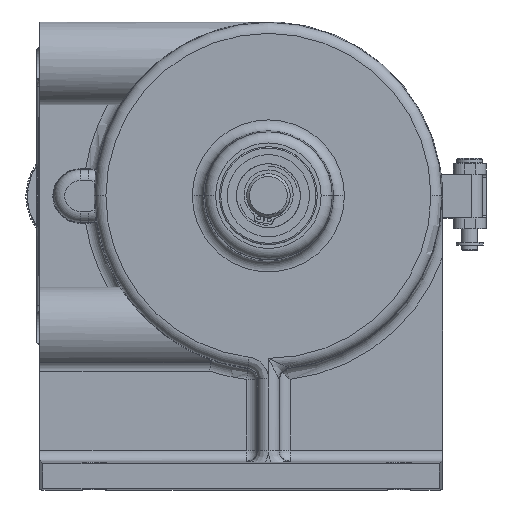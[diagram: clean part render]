
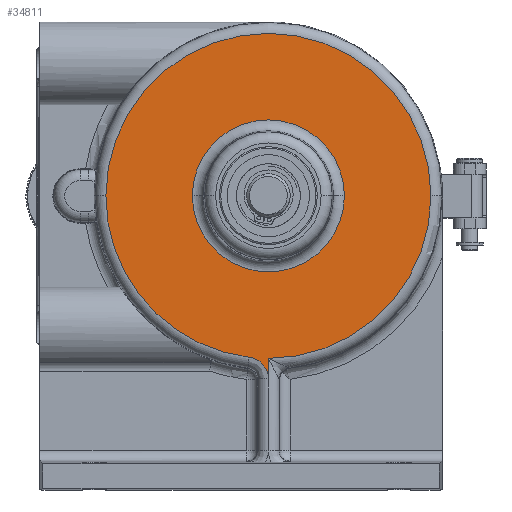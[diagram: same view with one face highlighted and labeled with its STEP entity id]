
A CAD part, top view. The second image highlights one B-rep face of the part: STEP entity #34811.
In plain terms, the highlighted planar face has unit normal (0, 0, 1).
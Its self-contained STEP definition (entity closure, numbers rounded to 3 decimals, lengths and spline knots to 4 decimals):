
#587 = CARTESIAN_POINT ( 'NONE',  ( -0.5741, 1.0016, 0.2475 ) ) ;
#589 = DIRECTION ( 'NONE',  ( 0., 0., 1. ) ) ;
#590 = DIRECTION ( 'NONE',  ( 1., 0., 0. ) ) ;
#653 = CARTESIAN_POINT ( 'NONE',  ( -0.5741, 1.0016, 0.2475 ) ) ;
#655 = DIRECTION ( 'NONE',  ( 0., 0., -1. ) ) ;
#657 = DIRECTION ( 'NONE',  ( 1., 0., 0. ) ) ;
#1706 = CARTESIAN_POINT ( 'NONE',  ( -0.5741, 1.0016, 0.2475 ) ) ;
#1708 = DIRECTION ( 'NONE',  ( 0., 0., 1. ) ) ;
#1710 = DIRECTION ( 'NONE',  ( 1., 0., 0. ) ) ;
#2342 = CARTESIAN_POINT ( 'NONE',  ( -0.5741, 1.0016, 0.2475 ) ) ;
#2343 = DIRECTION ( 'NONE',  ( 0., 1., 0. ) ) ;
#2371 = CARTESIAN_POINT ( 'NONE',  ( -0.5741, 1.0016, 0.2475 ) ) ;
#2372 = DIRECTION ( 'NONE',  ( 0., 0., -1. ) ) ;
#2373 = DIRECTION ( 'NONE',  ( 1., 0., 0. ) ) ;
#8743 = CARTESIAN_POINT ( 'NONE',  ( -0.7946, -0.8516, 0.2475 ) ) ;
#9139 = CARTESIAN_POINT ( 'NONE',  ( -0.5741, -1.0999, 0.2475 ) ) ;
#25897 = CARTESIAN_POINT ( 'NONE',  ( 0.2987, 1.0016, 0.2475 ) ) ;
#30124 = FACE_OUTER_BOUND ( 'NONE', #48497, .T. ) ;
#30146 = FACE_BOUND ( 'NONE', #48780, .T. ) ;
#32896 = CARTESIAN_POINT ( 'NONE',  ( -0.5741, 1.0016, 0.2475 ) ) ;
#32897 = PLANE ( 'NONE',  #66712 ) ;
#32902 = DIRECTION ( 'NONE',  ( 0., 0., 1. ) ) ;
#32903 = DIRECTION ( 'NONE',  ( 1., 0., 0. ) ) ;
#34811 = ADVANCED_FACE ( 'NONE', ( #30124, #30146 ), #32897, .T. ) ;
#36924 = VERTEX_POINT ( 'NONE', #48584 ) ;
#36944 = VERTEX_POINT ( 'NONE', #48614 ) ;
#36948 = VERTEX_POINT ( 'NONE', #48621 ) ;
#36960 = ORIENTED_EDGE ( 'NONE', *, *, #42986, .T. ) ;
#36961 = ORIENTED_EDGE ( 'NONE', *, *, #43228, .T. ) ;
#36962 = ORIENTED_EDGE ( 'NONE', *, *, #40450, .T. ) ;
#36963 = ORIENTED_EDGE ( 'NONE', *, *, #40451, .T. ) ;
#36964 = ORIENTED_EDGE ( 'NONE', *, *, #43264, .T. ) ;
#36965 = ORIENTED_EDGE ( 'NONE', *, *, #42994, .T. ) ;
#36966 = ORIENTED_EDGE ( 'NONE', *, *, #43273, .T. ) ;
#40450 = EDGE_CURVE ( 'NONE', #42143, #48860, #64672, .T. ) ;
#40451 = EDGE_CURVE ( 'NONE', #48860, #53029, #62873, .T. ) ;
#42143 = VERTEX_POINT ( 'NONE', #67643 ) ;
#42986 = EDGE_CURVE ( 'NONE', #36944, #36948, #65203, .T. ) ;
#42994 = EDGE_CURVE ( 'NONE', #60584, #36924, #65215, .T. ) ;
#43228 = EDGE_CURVE ( 'NONE', #36948, #42143, #65411, .T. ) ;
#43264 = EDGE_CURVE ( 'NONE', #53029, #36944, #65437, .T. ) ;
#43273 = EDGE_CURVE ( 'NONE', #36924, #60584, #65444, .T. ) ;
#48497 = EDGE_LOOP ( 'NONE', ( #36960, #36961, #36962, #36963, #36964 ) ) ;
#48584 = CARTESIAN_POINT ( 'NONE',  ( -1.447, 1.0016, 0.2475 ) ) ;
#48614 = CARTESIAN_POINT ( 'NONE',  ( -0.5741, -0.8647, 0.2475 ) ) ;
#48621 = CARTESIAN_POINT ( 'NONE',  ( 1.2921, 1.0016, 0.2475 ) ) ;
#48780 = EDGE_LOOP ( 'NONE', ( #36965, #36966 ) ) ;
#48860 = VERTEX_POINT ( 'NONE', #8743 ) ;
#53029 = VERTEX_POINT ( 'NONE', #9139 ) ;
#60190 = AXIS2_PLACEMENT_3D ( 'NONE', #66482, #66484, #66485 ) ;
#60254 = AXIS2_PLACEMENT_3D ( 'NONE', #587, #589, #590 ) ;
#60257 = AXIS2_PLACEMENT_3D ( 'NONE', #653, #655, #657 ) ;
#60301 = AXIS2_PLACEMENT_3D ( 'NONE', #1706, #1708, #1710 ) ;
#60308 = AXIS2_PLACEMENT_3D ( 'NONE', #2371, #2372, #2373 ) ;
#60584 = VERTEX_POINT ( 'NONE', #25897 ) ;
#62873 = B_SPLINE_CURVE_WITH_KNOTS ( 'NONE', 3,
 ( #66487, #66459, #66478, #66489, #66491, #66492, #66494, #66496, #66498, #66499, #66501, #66503, #66505, #66506, #66508, #66510, #66512, #66513, #66515, #66517 ),
 .UNSPECIFIED., .F., .F.,
 ( 4, 2, 2, 2, 2, 2, 2, 2, 2, 4 ),
 ( 0., 0.0012, 0.0023, 0.0035, 0.0046, 0.0052, 0.0058, 0.007, 0.0081, 0.0093 ),
 .UNSPECIFIED. ) ;
#64672 = CIRCLE ( 'NONE', #60190, 1.8663 ) ;
#65203 = CIRCLE ( 'NONE', #60254, 1.8663 ) ;
#65215 = CIRCLE ( 'NONE', #60257, 0.8728 ) ;
#65411 = CIRCLE ( 'NONE', #60301, 1.8663 ) ;
#65437 = LINE ( 'NONE', #2342, #65441 ) ;
#65441 = VECTOR ( 'NONE', #2343, 39.3701 ) ;
#65444 = CIRCLE ( 'NONE', #60308, 0.8728 ) ;
#66459 = CARTESIAN_POINT ( 'NONE',  ( -0.7794, -0.8534, 0.2475 ) ) ;
#66478 = CARTESIAN_POINT ( 'NONE',  ( -0.7644, -0.8566, 0.2475 ) ) ;
#66482 = CARTESIAN_POINT ( 'NONE',  ( -0.5741, 1.0016, 0.2475 ) ) ;
#66484 = DIRECTION ( 'NONE',  ( 0., 0., 1. ) ) ;
#66485 = DIRECTION ( 'NONE',  ( 1., 0., 0. ) ) ;
#66487 = CARTESIAN_POINT ( 'NONE',  ( -0.7946, -0.8516, 0.2475 ) ) ;
#66489 = CARTESIAN_POINT ( 'NONE',  ( -0.7356, -0.8656, 0.2475 ) ) ;
#66491 = CARTESIAN_POINT ( 'NONE',  ( -0.7217, -0.8713, 0.2475 ) ) ;
#66492 = CARTESIAN_POINT ( 'NONE',  ( -0.6949, -0.8853, 0.2475 ) ) ;
#66494 = CARTESIAN_POINT ( 'NONE',  ( -0.682, -0.8937, 0.2475 ) ) ;
#66496 = CARTESIAN_POINT ( 'NONE',  ( -0.6582, -0.9123, 0.2475 ) ) ;
#66498 = CARTESIAN_POINT ( 'NONE',  ( -0.6472, -0.9226, 0.2475 ) ) ;
#66499 = CARTESIAN_POINT ( 'NONE',  ( -0.6321, -0.9396, 0.2475 ) ) ;
#66501 = CARTESIAN_POINT ( 'NONE',  ( -0.6273, -0.9455, 0.2475 ) ) ;
#66503 = CARTESIAN_POINT ( 'NONE',  ( -0.6183, -0.9577, 0.2475 ) ) ;
#66505 = CARTESIAN_POINT ( 'NONE',  ( -0.6141, -0.964, 0.2475 ) ) ;
#66506 = CARTESIAN_POINT ( 'NONE',  ( -0.6024, -0.9833, 0.2475 ) ) ;
#66508 = CARTESIAN_POINT ( 'NONE',  ( -0.5958, -0.9969, 0.2475 ) ) ;
#66510 = CARTESIAN_POINT ( 'NONE',  ( -0.585, -1.0253, 0.2475 ) ) ;
#66512 = CARTESIAN_POINT ( 'NONE',  ( -0.5809, -1.04, 0.2475 ) ) ;
#66513 = CARTESIAN_POINT ( 'NONE',  ( -0.5755, -1.0696, 0.2475 ) ) ;
#66515 = CARTESIAN_POINT ( 'NONE',  ( -0.5741, -1.0846, 0.2475 ) ) ;
#66517 = CARTESIAN_POINT ( 'NONE',  ( -0.5741, -1.0999, 0.2475 ) ) ;
#66712 = AXIS2_PLACEMENT_3D ( 'NONE', #32896, #32902, #32903 ) ;
#67643 = CARTESIAN_POINT ( 'NONE',  ( -2.4404, 1.0016, 0.2475 ) ) ;
